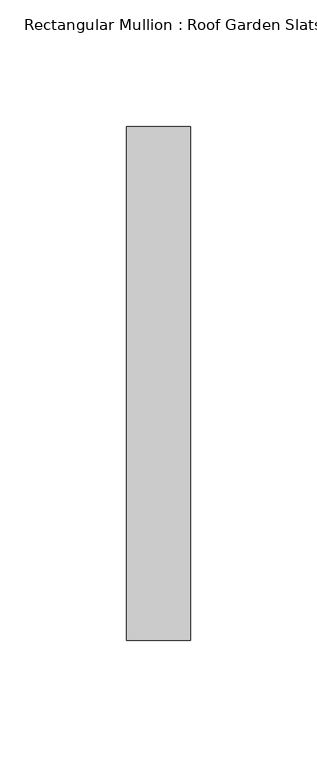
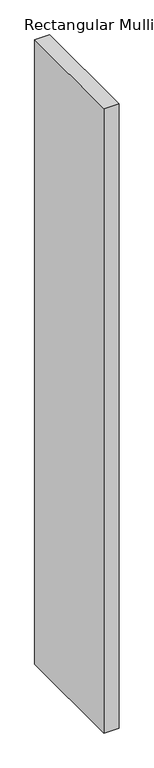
"""IFC4 building model written with IfcOpenShell, lengths in millimetres: member geometry, Rectangular Mullion : Roof Garden Slats."""

import ifcopenshell
import ifcopenshell.guid

model = None  # the IFC model being written
_history = None  # IfcOwnerHistory: only IFC2X3 demands one
_inside = {}  # id of a spatial element -> (the spatial element, [elements in it])
_under = {}  # id of a project, library or spatial element -> (it, [spatial elements below it])
_declared = {}  # id of a project -> (the project, [libraries it declares])
_typed = {}  # id of a type object -> (the type object, [elements of that type])
_made_of = {}  # id of a material, layer set ... -> (it, [elements and type objects made of it])


def new_model(schema):
    """Start an empty IFC model of exactly this schema.

    Asked for "IFC4X3", IfcOpenShell would pick the latest addendum, in which some entities
    have other attributes; the version numbers below select the first issue.
    IFC2X3 requires an IfcOwnerHistory on every rooted entity: one is made here for all.
    """
    global model, _history
    if schema == "IFC4X3":
        model = ifcopenshell.file(schema_version=(4, 3, 0, 0))
    else:
        model = ifcopenshell.file(schema=schema)
    _inside.clear()
    _under.clear()
    _declared.clear()
    _typed.clear()
    _made_of.clear()
    _history = None
    if model.schema == "IFC2X3":
        org = make("IfcOrganization", Name="unknown")
        user = make(
            "IfcPersonAndOrganization",
            ThePerson=make("IfcPerson", FamilyName="unknown"),
            TheOrganization=org,
        )
        app = make(
            "IfcApplication",
            ApplicationDeveloper=org,
            Version="unknown",
            ApplicationFullName="unknown",
            ApplicationIdentifier="unknown",
        )
        _history = make(
            "IfcOwnerHistory",
            OwningUser=user,
            OwningApplication=app,
            ChangeAction="ADDED",
            CreationDate=0,
        )
    return model


def make(cls, **values):
    """One entity of the class cls with the attributes given. An attribute that is None is left unset."""
    return model.create_entity(
        cls, **{name: value for name, value in values.items() if value is not None}
    )


def rooted(cls, **values):
    """An entity with a GlobalId (a new one), such as an element, a storey or a relation."""
    return make(cls, GlobalId=ifcopenshell.guid.new(), OwnerHistory=_history, **values)


def si_unit(unit_type, name, prefix=None):
    """IfcSIUnit, for example si_unit("LENGTHUNIT", "METRE", prefix="MILLI")."""
    return make("IfcSIUnit", UnitType=unit_type, Prefix=prefix, Name=name)


def assignment(units):
    """IfcUnitAssignment: the units of a project."""
    return None if units is None else make("IfcUnitAssignment", Units=units)


def point(xyz):
    """IfcCartesianPoint."""
    return None if xyz is None else make("IfcCartesianPoint", Coordinates=xyz)


def direction(xyz):
    """IfcDirection."""
    return None if xyz is None else make("IfcDirection", DirectionRatios=xyz)


def frame(location, z_axis=None, x_axis=None):
    """IfcAxis2Placement3D, a coordinate frame: its origin and axes. An axis left out is left unset."""
    return make(
        "IfcAxis2Placement3D",
        Location=point(location),
        Axis=direction(z_axis),
        RefDirection=direction(x_axis),
    )


def origin():
    """The frame at (0, 0, 0) with its axes left unset."""
    return frame((0.0, 0.0, 0.0))


def place(relative_to, where):
    """IfcLocalPlacement: puts the frame where relative to a parent placement (None: the world)."""
    return make(
        "IfcLocalPlacement", PlacementRelTo=relative_to, RelativePlacement=where
    )


def context(
    kind, dimensions, precision=None, world=None, true_north=None, identifier=None
):
    """IfcGeometricRepresentationContext, for example the 3D "Model" context."""
    return make(
        "IfcGeometricRepresentationContext",
        ContextIdentifier=identifier,
        ContextType=kind,
        CoordinateSpaceDimension=dimensions,
        Precision=precision,
        WorldCoordinateSystem=world,
        TrueNorth=true_north,
    )


def project(units=None, contexts=None):
    """IfcProject with its units and contexts."""
    return rooted(
        "IfcProject",
        Name="project",
        RepresentationContexts=contexts,
        UnitsInContext=assignment(units),
    )


def spatial(cls, under=None, at=None, **own):
    """A site, building, storey or space (cls), placed at a placement, below another one or the project."""
    s = rooted(cls, ObjectPlacement=at, **own)
    if under is not None:
        _under.setdefault(under.id(), (under, []))[1].append(s)
    return s


def polyline(points):
    """IfcPolyline through the points."""
    return make("IfcPolyline", Points=[point(p) for p in points])


def outline(outer, holes=None, kind="AREA"):
    """IfcArbitraryClosedProfileDef: a profile drawn as a closed curve; with holes, ...WithVoids."""
    if holes is None:
        return make("IfcArbitraryClosedProfileDef", ProfileType=kind, OuterCurve=outer)
    return make(
        "IfcArbitraryProfileDefWithVoids",
        ProfileType=kind,
        OuterCurve=outer,
        InnerCurves=holes,
    )


def extrude(swept, where, along, depth):
    """IfcExtrudedAreaSolid: the profile swept, set in the frame where, extruded along a direction by depth."""
    return make(
        "IfcExtrudedAreaSolid",
        SweptArea=swept,
        Position=where,
        ExtrudedDirection=direction(along),
        Depth=depth,
    )


def shape(context_of_items, identifier, shape_type, items):
    """IfcShapeRepresentation: the items that make up one representation, for example the "Body"."""
    return make(
        "IfcShapeRepresentation",
        ContextOfItems=context_of_items,
        RepresentationIdentifier=identifier,
        RepresentationType=shape_type,
        Items=items,
    )


def source(mapping_origin, context_of_items, identifier, shape_type, items):
    """IfcRepresentationMap: a shape defined once, which mapped items show again and again."""
    return make(
        "IfcRepresentationMap",
        MappingOrigin=mapping_origin,
        MappedRepresentation=shape(context_of_items, identifier, shape_type, items),
    )


def transform(
    local_origin,
    x_axis=None,
    y_axis=None,
    z_axis=None,
    scale=None,
    scale2=None,
    scale3=None,
    uniform=True,
):
    """IfcCartesianTransformationOperator3D, or its non-uniform kind. x_axis, y_axis, z_axis: its Axis1, 2, 3."""
    if uniform:
        return make(
            "IfcCartesianTransformationOperator3D",
            Axis1=direction(x_axis),
            Axis2=direction(y_axis),
            LocalOrigin=point(local_origin),
            Scale=scale,
            Axis3=direction(z_axis),
        )
    return make(
        "IfcCartesianTransformationOperator3DnonUniform",
        Axis1=direction(x_axis),
        Axis2=direction(y_axis),
        LocalOrigin=point(local_origin),
        Scale=scale,
        Axis3=direction(z_axis),
        Scale2=scale2,
        Scale3=scale3,
    )


def mapped(mapping_source, mapping_target):
    """IfcMappedItem: shows the shape of a source again, moved by a transform."""
    return make(
        "IfcMappedItem", MappingSource=mapping_source, MappingTarget=mapping_target
    )


def made_of(thing, what):
    """Note that an element or type object is made of a material, layer set ...; save() writes the relation."""
    if what is not None:
        _made_of.setdefault(what.id(), (what, []))[1].append(thing)
    return thing


def element(
    cls,
    number,
    at=None,
    inside=None,
    cuts=None,
    type_object=None,
    material=None,
    context=None,
    identifier="Body",
    shape_type=None,
    held_by="IfcProductDefinitionShape",
    body=None,
    shapes=None,
    **own,
):
    """One element of the class cls, such as IfcWall. Its Tag is "e" and its number.

    at: its placement. inside: the storey or other place that contains it. cuts: it is an
    opening in that element (IfcRelVoidsElement). A single representation is given by context,
    identifier, shape_type and body (its items); several are given by shapes. held_by: the class
    of the entity that holds the representations. save() writes the other relations.
    """
    e = rooted(cls, Tag="e%d" % number, ObjectPlacement=at, **own)
    if body is not None:
        shapes = [shape(context, identifier, shape_type, body)]
    if shapes is not None:
        e.Representation = make(held_by, Representations=shapes)
    if inside is not None:
        _inside.setdefault(inside.id(), (inside, []))[1].append(e)
    if cuts is not None:
        rooted(
            "IfcRelVoidsElement", RelatingBuildingElement=cuts, RelatedOpeningElement=e
        )
    if type_object is not None:
        _typed.setdefault(type_object.id(), (type_object, []))[1].append(e)
    return made_of(e, material)


def aggregate(whole, parts):
    """IfcRelAggregates: a whole, such as a stair, and the parts it consists of."""
    return rooted("IfcRelAggregates", RelatingObject=whole, RelatedObjects=parts)


def save(model, path):
    """Write the relations noted so far, then the file.

    IfcRelAggregates (storeys below a building ...), IfcRelContainedInSpatialStructure (elements
    in a storey), IfcRelDefinesByType, IfcRelAssociatesMaterial and IfcRelDeclares: one each for
    every whole, place, type object, material and project.
    """
    for whole, parts in _under.values():
        aggregate(whole, parts)
    for where, things in _inside.values():
        rooted(
            "IfcRelContainedInSpatialStructure",
            RelatedElements=things,
            RelatingStructure=where,
        )
    for kind, things in _typed.values():
        rooted("IfcRelDefinesByType", RelatedObjects=things, RelatingType=kind)
    for what, things in _made_of.values():
        rooted("IfcRelAssociatesMaterial", RelatedObjects=things, RelatingMaterial=what)
    for by, libraries in _declared.values():
        rooted("IfcRelDeclares", RelatingContext=by, RelatedDefinitions=libraries)
    model.write(path)


def rectangular_mullion_roof_garden_slats_57b2c9be(model_context):
    return source(origin(), model_context, "Body", "SweptSolid", [
        extrude(outline(polyline([(0.0, 139.7), (0.0, -63.5), (-25.4, -63.5), (-25.4, 139.7), (0.0, 139.7)])), frame((0.0, 0.0, -1117.6), z_axis=(0.0, 0.0, 1.0), x_axis=(1.0, 0.0, 0.0)), (0.0, 0.0, 1.0), 1117.6),
    ])


if __name__ == "__main__":
    model = new_model("IFC4")
    model_context = context("Model", 3, world=origin())
    ifc_project = project(units=[si_unit("LENGTHUNIT", "METRE", prefix="MILLI")], contexts=[model_context])
    site = spatial("IfcSite", under=ifc_project)
    building = spatial("IfcBuilding", under=site)
    placement = place(None, origin())
    rectangular_mullion_roof_garden_slats_shape = rectangular_mullion_roof_garden_slats_57b2c9be(model_context)
    element("IfcMember", 1, ObjectType="Rectangular Mullion : Roof Garden Slats", at=placement, inside=building, context=model_context, shape_type="MappedRepresentation", body=[
        mapped(rectangular_mullion_roof_garden_slats_shape, transform((0.0, 0.0, 0.0), x_axis=(1.0, 0.0, 0.0), y_axis=(0.0, 1.0, 0.0), z_axis=(0.0, 0.0, 1.0))),
    ])
    save(model, "model.ifc")
